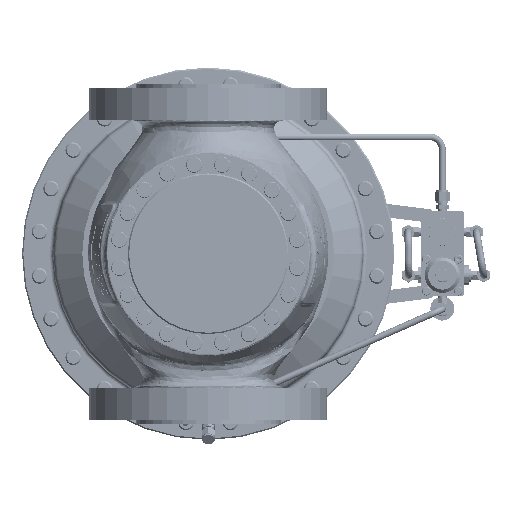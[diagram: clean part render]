
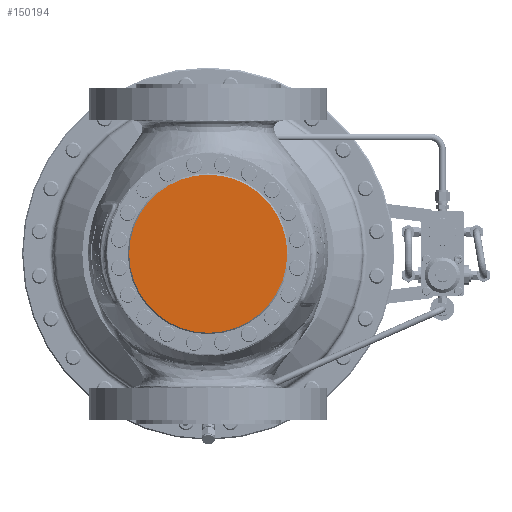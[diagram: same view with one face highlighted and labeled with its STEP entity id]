
A CAD part, front view. The second image highlights one B-rep face of the part: STEP entity #150194.
In plain terms, the highlighted planar face has unit normal (0, -1, 0).
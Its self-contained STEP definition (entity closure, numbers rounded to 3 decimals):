
#66712=CARTESIAN_POINT('',(0.,-216.,0.));
#66713=DIRECTION('',(0.,1.,0.));
#66714=DIRECTION('',(-1.,0.,0.));
#66715=AXIS2_PLACEMENT_3D('',#66712,#66713,#66714);
#66717=CARTESIAN_POINT('',(0.,-216.,0.));
#66718=DIRECTION('',(0.,-1.,0.));
#66719=DIRECTION('',(-1.,0.,0.));
#66720=AXIS2_PLACEMENT_3D('',#66717,#66718,#66719);
#75761=CARTESIAN_POINT('',(-118.,-216.,0.));
#75762=CARTESIAN_POINT('',(118.,-216.,0.));
#75763=VERTEX_POINT('',#75761);
#75764=VERTEX_POINT('',#75762);
#150184=CARTESIAN_POINT('',(0.,-216.,0.));
#150185=DIRECTION('',(0.,1.,0.));
#150186=DIRECTION('',(1.,0.,0.));
#150187=AXIS2_PLACEMENT_3D('',#150184,#150185,#150186);
#150188=PLANE('',#150187);
#150189=ORIENTED_EDGE('',*,*,#150174,.T.);
#150191=ORIENTED_EDGE('',*,*,#150190,.F.);
#150192=EDGE_LOOP('',(#150189,#150191));
#150193=FACE_OUTER_BOUND('',#150192,.F.);
#150194=ADVANCED_FACE('',(#150193),#150188,.F.);
#66716=CIRCLE('',#66715,118.);
#66721=CIRCLE('',#66720,118.);
#150174=EDGE_CURVE('',#75763,#75764,#66716,.T.);
#150190=EDGE_CURVE('',#75763,#75764,#66721,.T.);
